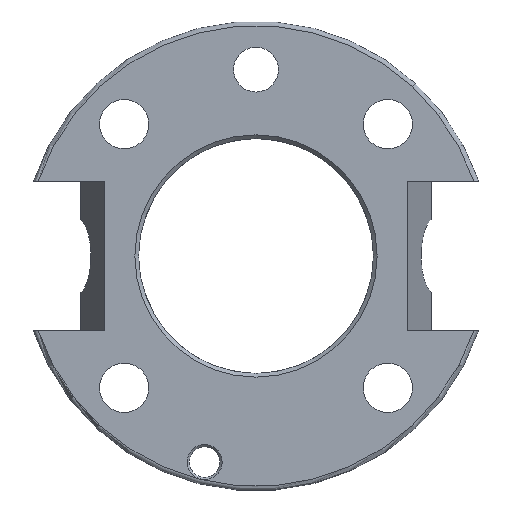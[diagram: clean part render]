
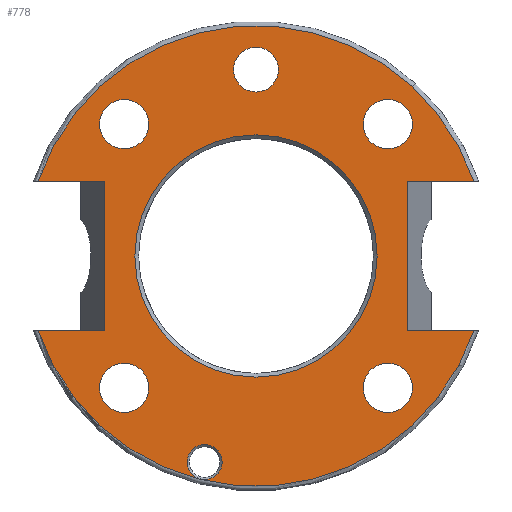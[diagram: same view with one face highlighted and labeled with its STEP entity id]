
A CAD part, front view. The second image highlights one B-rep face of the part: STEP entity #778.
In plain terms, the highlighted planar face has unit normal (0, -1, 0).
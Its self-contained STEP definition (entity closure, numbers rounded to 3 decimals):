
#37=FACE_BOUND('',#129,.T.);
#38=FACE_BOUND('',#130,.T.);
#39=FACE_BOUND('',#131,.T.);
#40=FACE_BOUND('',#132,.T.);
#41=FACE_BOUND('',#133,.T.);
#42=FACE_BOUND('',#134,.T.);
#43=FACE_BOUND('',#135,.T.);
#53=PLANE('',#843);
#87=FACE_OUTER_BOUND('',#128,.T.);
#128=EDGE_LOOP('',(#542,#543,#544,#545,#546,#547,#548,#549));
#129=EDGE_LOOP('',(#550));
#130=EDGE_LOOP('',(#551));
#131=EDGE_LOOP('',(#552));
#132=EDGE_LOOP('',(#553));
#133=EDGE_LOOP('',(#554));
#134=EDGE_LOOP('',(#555));
#135=EDGE_LOOP('',(#556));
#185=LINE('',#1193,#233);
#186=LINE('',#1195,#234);
#187=LINE('',#1197,#235);
#188=LINE('',#1201,#236);
#189=LINE('',#1203,#237);
#190=LINE('',#1204,#238);
#233=VECTOR('',#953,10.);
#234=VECTOR('',#954,10.);
#235=VECTOR('',#955,10.);
#236=VECTOR('',#958,10.);
#237=VECTOR('',#959,10.);
#238=VECTOR('',#960,10.);
#279=CIRCLE('',#838,2.35);
#283=CIRCLE('',#844,30.9);
#284=CIRCLE('',#845,30.9);
#285=CIRCLE('',#846,16.25);
#286=CIRCLE('',#847,3.);
#287=CIRCLE('',#848,3.3);
#288=CIRCLE('',#849,3.3);
#289=CIRCLE('',#850,3.3);
#290=CIRCLE('',#851,3.3);
#332=VERTEX_POINT('',#1177);
#336=VERTEX_POINT('',#1189);
#337=VERTEX_POINT('',#1190);
#338=VERTEX_POINT('',#1192);
#339=VERTEX_POINT('',#1194);
#340=VERTEX_POINT('',#1196);
#341=VERTEX_POINT('',#1198);
#342=VERTEX_POINT('',#1200);
#343=VERTEX_POINT('',#1202);
#344=VERTEX_POINT('',#1205);
#345=VERTEX_POINT('',#1207);
#346=VERTEX_POINT('',#1209);
#347=VERTEX_POINT('',#1211);
#348=VERTEX_POINT('',#1213);
#349=VERTEX_POINT('',#1215);
#414=EDGE_CURVE('',#332,#332,#279,.T.);
#420=EDGE_CURVE('',#336,#337,#283,.T.);
#421=EDGE_CURVE('',#336,#338,#185,.T.);
#422=EDGE_CURVE('',#338,#339,#186,.T.);
#423=EDGE_CURVE('',#339,#340,#187,.T.);
#424=EDGE_CURVE('',#341,#340,#284,.T.);
#425=EDGE_CURVE('',#341,#342,#188,.T.);
#426=EDGE_CURVE('',#342,#343,#189,.T.);
#427=EDGE_CURVE('',#343,#337,#190,.T.);
#428=EDGE_CURVE('',#344,#344,#285,.T.);
#429=EDGE_CURVE('',#345,#345,#286,.T.);
#430=EDGE_CURVE('',#346,#346,#287,.T.);
#431=EDGE_CURVE('',#347,#347,#288,.T.);
#432=EDGE_CURVE('',#348,#348,#289,.T.);
#433=EDGE_CURVE('',#349,#349,#290,.T.);
#542=ORIENTED_EDGE('',*,*,#420,.F.);
#543=ORIENTED_EDGE('',*,*,#421,.T.);
#544=ORIENTED_EDGE('',*,*,#422,.T.);
#545=ORIENTED_EDGE('',*,*,#423,.T.);
#546=ORIENTED_EDGE('',*,*,#424,.F.);
#547=ORIENTED_EDGE('',*,*,#425,.T.);
#548=ORIENTED_EDGE('',*,*,#426,.T.);
#549=ORIENTED_EDGE('',*,*,#427,.T.);
#550=ORIENTED_EDGE('',*,*,#428,.F.);
#551=ORIENTED_EDGE('',*,*,#429,.T.);
#552=ORIENTED_EDGE('',*,*,#430,.T.);
#553=ORIENTED_EDGE('',*,*,#431,.T.);
#554=ORIENTED_EDGE('',*,*,#432,.T.);
#555=ORIENTED_EDGE('',*,*,#433,.T.);
#556=ORIENTED_EDGE('',*,*,#414,.F.);
#778=ADVANCED_FACE('',(#87,#37,#38,#39,#40,#41,#42,#43),#53,.T.);
#838=AXIS2_PLACEMENT_3D('',#1178,#937,#938);
#843=AXIS2_PLACEMENT_3D('',#1188,#949,#950);
#844=AXIS2_PLACEMENT_3D('',#1191,#951,#952);
#845=AXIS2_PLACEMENT_3D('',#1199,#956,#957);
#846=AXIS2_PLACEMENT_3D('',#1206,#961,#962);
#847=AXIS2_PLACEMENT_3D('',#1208,#963,#964);
#848=AXIS2_PLACEMENT_3D('',#1210,#965,#966);
#849=AXIS2_PLACEMENT_3D('',#1212,#967,#968);
#850=AXIS2_PLACEMENT_3D('',#1214,#969,#970);
#851=AXIS2_PLACEMENT_3D('',#1216,#971,#972);
#937=DIRECTION('center_axis',(0.,-1.,0.));
#938=DIRECTION('ref_axis',(1.,0.,0.));
#949=DIRECTION('center_axis',(0.,-1.,0.));
#950=DIRECTION('ref_axis',(0.,0.,-1.));
#951=DIRECTION('center_axis',(0.,1.,0.));
#952=DIRECTION('ref_axis',(0.,0.,1.));
#953=DIRECTION('',(1.,0.,0.));
#954=DIRECTION('',(0.,0.,-1.));
#955=DIRECTION('',(-1.,0.,0.));
#956=DIRECTION('center_axis',(0.,1.,0.));
#957=DIRECTION('ref_axis',(0.,0.,-1.));
#958=DIRECTION('',(-1.,0.,0.));
#959=DIRECTION('',(0.,0.,1.));
#960=DIRECTION('',(1.,0.,0.));
#961=DIRECTION('center_axis',(0.,-1.,0.));
#962=DIRECTION('ref_axis',(1.,0.,0.));
#963=DIRECTION('center_axis',(0.,1.,0.));
#964=DIRECTION('ref_axis',(1.,0.,0.));
#965=DIRECTION('center_axis',(0.,1.,0.));
#966=DIRECTION('ref_axis',(1.,0.,0.));
#967=DIRECTION('center_axis',(0.,1.,0.));
#968=DIRECTION('ref_axis',(1.,0.,0.));
#969=DIRECTION('center_axis',(0.,1.,0.));
#970=DIRECTION('ref_axis',(1.,0.,0.));
#971=DIRECTION('center_axis',(0.,1.,0.));
#972=DIRECTION('ref_axis',(1.,0.,0.));
#1177=CARTESIAN_POINT('',(-9.245,0.,-27.653));
#1178=CARTESIAN_POINT('Origin',(-6.895,0.,
-27.653));
#1188=CARTESIAN_POINT('Origin',(-23.625,0.,0.));
#1189=CARTESIAN_POINT('',(-29.237,0.,10.));
#1190=CARTESIAN_POINT('',(29.237,0.,10.));
#1191=CARTESIAN_POINT('Origin',(0.,0.,0.));
#1192=CARTESIAN_POINT('',(-20.36,0.,10.));
#1193=CARTESIAN_POINT('',(-25.152,0.,10.));
#1194=CARTESIAN_POINT('',(-20.36,0.,-10.));
#1195=CARTESIAN_POINT('',(-20.36,0.,0.));
#1196=CARTESIAN_POINT('',(-29.237,0.,-10.));
#1197=CARTESIAN_POINT('',(-25.152,0.,-10.));
#1198=CARTESIAN_POINT('',(29.237,0.,-10.));
#1199=CARTESIAN_POINT('Origin',(0.,0.,0.));
#1200=CARTESIAN_POINT('',(20.36,0.,-10.));
#1201=CARTESIAN_POINT('',(1.527,0.,-10.));
#1202=CARTESIAN_POINT('',(20.36,0.,10.));
#1203=CARTESIAN_POINT('',(20.36,0.,0.));
#1204=CARTESIAN_POINT('',(1.527,0.,10.));
#1205=CARTESIAN_POINT('',(-16.25,0.,0.));
#1206=CARTESIAN_POINT('Origin',(0.,0.,0.));
#1207=CARTESIAN_POINT('',(-3.,0.,25.));
#1208=CARTESIAN_POINT('Origin',(0.,0.,25.));
#1209=CARTESIAN_POINT('',(14.378,0.,17.678));
#1210=CARTESIAN_POINT('Origin',(17.678,0.,17.678));
#1211=CARTESIAN_POINT('',(14.378,0.,-17.678));
#1212=CARTESIAN_POINT('Origin',(17.678,0.,-17.678));
#1213=CARTESIAN_POINT('',(-20.978,0.,-17.678));
#1214=CARTESIAN_POINT('Origin',(-17.678,0.,-17.678));
#1215=CARTESIAN_POINT('',(-20.978,0.,17.678));
#1216=CARTESIAN_POINT('Origin',(-17.678,0.,17.678));
